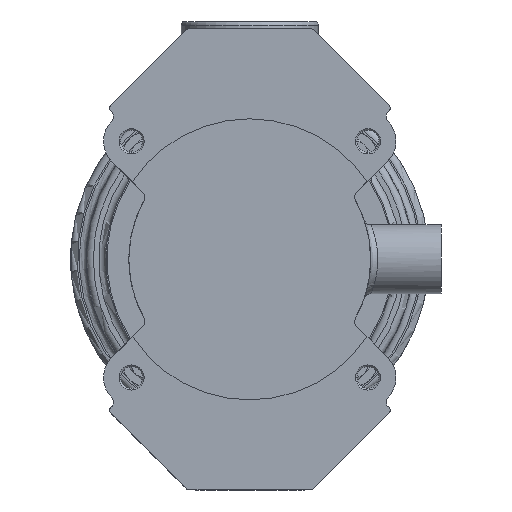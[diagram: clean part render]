
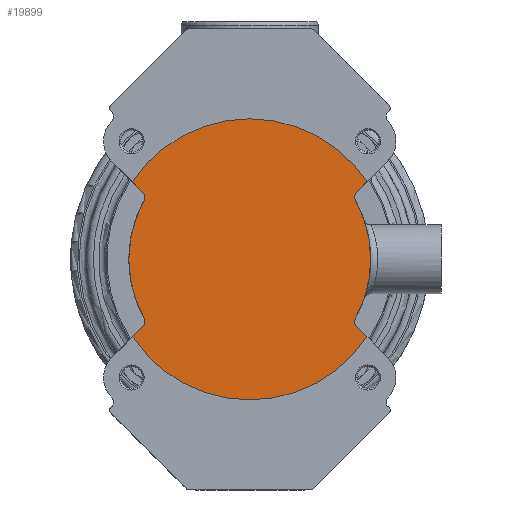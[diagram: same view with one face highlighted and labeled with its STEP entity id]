
A CAD part, front view. The second image highlights one B-rep face of the part: STEP entity #19899.
In plain terms, the highlighted planar face has unit normal (0, -1, 0).
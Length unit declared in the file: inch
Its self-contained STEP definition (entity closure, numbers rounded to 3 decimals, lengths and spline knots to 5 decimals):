
#588 = CARTESIAN_POINT ( 'NONE',  ( 0., -2.68, 0. ) ) ;
#838 = CIRCLE ( 'NONE', #17637, 2.4975 ) ;
#1719 = ORIENTED_EDGE ( 'NONE', *, *, #5120, .T. ) ;
#2004 = DIRECTION ( 'NONE',  ( 0., 1., 0. ) ) ;
#2371 = DIRECTION ( 'NONE',  ( 0., 0., -1. ) ) ;
#2515 = AXIS2_PLACEMENT_3D ( 'NONE', #9019, #56441, #32725 ) ;
#3322 = EDGE_CURVE ( 'NONE', #40511, #36681, #31011, .T. ) ;
#3643 = LINE ( 'NONE', #21677, #19063 ) ;
#4114 = VERTEX_POINT ( 'NONE', #9462 ) ;
#5072 = PLANE ( 'NONE',  #30962 ) ;
#5120 = EDGE_CURVE ( 'NONE', #26455, #40511, #9219, .T. ) ;
#5649 = AXIS2_PLACEMENT_3D ( 'NONE', #7279, #2004, #20970 ) ;
#5837 = ORIENTED_EDGE ( 'NONE', *, *, #47802, .T. ) ;
#5873 = CARTESIAN_POINT ( 'NONE',  ( -2.0838, -2.68, -1.37669 ) ) ;
#7279 = CARTESIAN_POINT ( 'NONE',  ( -1.98871, -2.68, -1.10483 ) ) ;
#7635 = CARTESIAN_POINT ( 'NONE',  ( 1.98871, -2.68, 1.10483 ) ) ;
#8008 = DIRECTION ( 'NONE',  ( 0.707, 0., 0.707 ) ) ;
#9019 = CARTESIAN_POINT ( 'NONE',  ( 0., -2.68, 0. ) ) ;
#9219 = CIRCLE ( 'NONE', #45119, 0.125 ) ;
#9462 = CARTESIAN_POINT ( 'NONE',  ( 2.0838, -2.68, -1.37669 ) ) ;
#10506 = DIRECTION ( 'NONE',  ( 0., 0., -1. ) ) ;
#10927 = VERTEX_POINT ( 'NONE', #32928 ) ;
#13024 = EDGE_CURVE ( 'NONE', #4114, #56361, #39461, .T. ) ;
#13203 = AXIS2_PLACEMENT_3D ( 'NONE', #588, #29240, #10506 ) ;
#13717 = VERTEX_POINT ( 'NONE', #5873 ) ;
#14016 = CARTESIAN_POINT ( 'NONE',  ( 1.87944, -2.68, 1.04412 ) ) ;
#14148 = DIRECTION ( 'NONE',  ( 0., 0., -1. ) ) ;
#14436 = ORIENTED_EDGE ( 'NONE', *, *, #3322, .T. ) ;
#15550 = ORIENTED_EDGE ( 'NONE', *, *, #23158, .T. ) ;
#15577 = CARTESIAN_POINT ( 'NONE',  ( -1.90032, -2.68, -1.19322 ) ) ;
#16103 = CARTESIAN_POINT ( 'NONE',  ( 1.90032, -2.68, 1.19322 ) ) ;
#16331 = DIRECTION ( 'NONE',  ( 0., -1., 0. ) ) ;
#16720 = VECTOR ( 'NONE', #58594, 39.37008 ) ;
#17403 = CIRCLE ( 'NONE', #2515, 2.4975 ) ;
#17637 = AXIS2_PLACEMENT_3D ( 'NONE', #56709, #61696, #23005 ) ;
#18065 = DIRECTION ( 'NONE',  ( 0., 1., 0. ) ) ;
#18470 = ORIENTED_EDGE ( 'NONE', *, *, #25918, .T. ) ;
#19035 = AXIS2_PLACEMENT_3D ( 'NONE', #22250, #16331, #36337 ) ;
#19063 = VECTOR ( 'NONE', #8008, 39.37008 ) ;
#19251 = EDGE_CURVE ( 'NONE', #4114, #38020, #32969, .T. ) ;
#19411 = DIRECTION ( 'NONE',  ( 0., 0., -1. ) ) ;
#19718 = AXIS2_PLACEMENT_3D ( 'NONE', #7635, #41041, #2371 ) ;
#19899 = ADVANCED_FACE ( 'NONE', ( #47503 ), #5072, .T. ) ;
#20345 = AXIS2_PLACEMENT_3D ( 'NONE', #45910, #18065, #61149 ) ;
#20454 = AXIS2_PLACEMENT_3D ( 'NONE', #32867, #57523, #19411 ) ;
#20461 = LINE ( 'NONE', #42773, #16720 ) ;
#20970 = DIRECTION ( 'NONE',  ( 0., 0., -1. ) ) ;
#21176 = ORIENTED_EDGE ( 'NONE', *, *, #13024, .F. ) ;
#21677 = CARTESIAN_POINT ( 'NONE',  ( 1.90032, -2.68, 1.19322 ) ) ;
#21872 = VECTOR ( 'NONE', #54887, 39.37008 ) ;
#22250 = CARTESIAN_POINT ( 'NONE',  ( 0., -2.68, 0. ) ) ;
#23005 = DIRECTION ( 'NONE',  ( 0., 0., -1. ) ) ;
#23139 = CARTESIAN_POINT ( 'NONE',  ( 1.98871, -2.68, -1.10483 ) ) ;
#23158 = EDGE_CURVE ( 'NONE', #38020, #51686, #61219, .T. ) ;
#23829 = DIRECTION ( 'NONE',  ( 0., 1., 0. ) ) ;
#24022 = CARTESIAN_POINT ( 'NONE',  ( 2.0838, -2.68, 1.37669 ) ) ;
#24852 = CARTESIAN_POINT ( 'NONE',  ( 1.87944, -2.68, -1.04412 ) ) ;
#25918 = EDGE_CURVE ( 'NONE', #30767, #28339, #29691, .T. ) ;
#26455 = VERTEX_POINT ( 'NONE', #47415 ) ;
#28339 = VERTEX_POINT ( 'NONE', #16103 ) ;
#29240 = DIRECTION ( 'NONE',  ( 0., -1., 0. ) ) ;
#29691 = CIRCLE ( 'NONE', #19718, 0.125 ) ;
#30311 = DIRECTION ( 'NONE',  ( -0.707, 0., -0.707 ) ) ;
#30698 = VERTEX_POINT ( 'NONE', #24022 ) ;
#30767 = VERTEX_POINT ( 'NONE', #14016 ) ;
#30823 = EDGE_LOOP ( 'NONE', ( #21176, #49493, #15550, #60074, #18470, #32958, #35675, #41506, #1719, #14436, #5837, #42873, #55166 ) ) ;
#30962 = AXIS2_PLACEMENT_3D ( 'NONE', #23139, #42817, #32810 ) ;
#31011 = CIRCLE ( 'NONE', #19035, 2.15 ) ;
#32725 = DIRECTION ( 'NONE',  ( 0., 0., -1. ) ) ;
#32810 = DIRECTION ( 'NONE',  ( 0., 0., -1. ) ) ;
#32867 = CARTESIAN_POINT ( 'NONE',  ( 0., -2.68, 0. ) ) ;
#32928 = CARTESIAN_POINT ( 'NONE',  ( -2.0838, -2.68, 1.37669 ) ) ;
#32958 = ORIENTED_EDGE ( 'NONE', *, *, #43077, .T. ) ;
#32969 = LINE ( 'NONE', #59591, #21872 ) ;
#33013 = EDGE_CURVE ( 'NONE', #56361, #13717, #838, .T. ) ;
#33282 = VECTOR ( 'NONE', #30311, 39.37008 ) ;
#33479 = EDGE_CURVE ( 'NONE', #10927, #26455, #20461, .T. ) ;
#35577 = CARTESIAN_POINT ( 'NONE',  ( -1.90032, -2.68, -1.19322 ) ) ;
#35655 = CARTESIAN_POINT ( 'NONE',  ( 0., -2.68, -2.4975 ) ) ;
#35675 = ORIENTED_EDGE ( 'NONE', *, *, #57556, .F. ) ;
#36337 = DIRECTION ( 'NONE',  ( 0., 0., -1. ) ) ;
#36681 = VERTEX_POINT ( 'NONE', #56124 ) ;
#37914 = CARTESIAN_POINT ( 'NONE',  ( -1.98871, -2.68, 1.10483 ) ) ;
#38020 = VERTEX_POINT ( 'NONE', #41724 ) ;
#38440 = LINE ( 'NONE', #35577, #33282 ) ;
#38541 = CIRCLE ( 'NONE', #5649, 0.125 ) ;
#39461 = CIRCLE ( 'NONE', #20454, 2.4975 ) ;
#39635 = EDGE_CURVE ( 'NONE', #51686, #30767, #50279, .T. ) ;
#40511 = VERTEX_POINT ( 'NONE', #47322 ) ;
#41041 = DIRECTION ( 'NONE',  ( 0., 1., 0. ) ) ;
#41506 = ORIENTED_EDGE ( 'NONE', *, *, #33479, .T. ) ;
#41724 = CARTESIAN_POINT ( 'NONE',  ( 1.90032, -2.68, -1.19322 ) ) ;
#42773 = CARTESIAN_POINT ( 'NONE',  ( -2.45366, -2.68, 1.74655 ) ) ;
#42817 = DIRECTION ( 'NONE',  ( 0., -1., 0. ) ) ;
#42873 = ORIENTED_EDGE ( 'NONE', *, *, #56512, .T. ) ;
#43077 = EDGE_CURVE ( 'NONE', #28339, #30698, #3643, .T. ) ;
#45119 = AXIS2_PLACEMENT_3D ( 'NONE', #37914, #23829, #14148 ) ;
#45910 = CARTESIAN_POINT ( 'NONE',  ( 1.98871, -2.68, -1.10483 ) ) ;
#47322 = CARTESIAN_POINT ( 'NONE',  ( -1.87944, -2.68, 1.04412 ) ) ;
#47415 = CARTESIAN_POINT ( 'NONE',  ( -1.90032, -2.68, 1.19322 ) ) ;
#47503 = FACE_OUTER_BOUND ( 'NONE', #30823, .T. ) ;
#47802 = EDGE_CURVE ( 'NONE', #36681, #57226, #38541, .T. ) ;
#49493 = ORIENTED_EDGE ( 'NONE', *, *, #19251, .T. ) ;
#50279 = CIRCLE ( 'NONE', #13203, 2.15 ) ;
#51686 = VERTEX_POINT ( 'NONE', #24852 ) ;
#54887 = DIRECTION ( 'NONE',  ( -0.707, 0., 0.707 ) ) ;
#55166 = ORIENTED_EDGE ( 'NONE', *, *, #33013, .F. ) ;
#56124 = CARTESIAN_POINT ( 'NONE',  ( -1.87944, -2.68, -1.04412 ) ) ;
#56361 = VERTEX_POINT ( 'NONE', #35655 ) ;
#56441 = DIRECTION ( 'NONE',  ( 0., 1., 0. ) ) ;
#56512 = EDGE_CURVE ( 'NONE', #57226, #13717, #38440, .T. ) ;
#56709 = CARTESIAN_POINT ( 'NONE',  ( 0., -2.68, 0. ) ) ;
#57226 = VERTEX_POINT ( 'NONE', #15577 ) ;
#57523 = DIRECTION ( 'NONE',  ( 0., 1., 0. ) ) ;
#57556 = EDGE_CURVE ( 'NONE', #10927, #30698, #17403, .T. ) ;
#58594 = DIRECTION ( 'NONE',  ( 0.707, 0., -0.707 ) ) ;
#59591 = CARTESIAN_POINT ( 'NONE',  ( 2.45366, -2.68, -1.74655 ) ) ;
#60074 = ORIENTED_EDGE ( 'NONE', *, *, #39635, .T. ) ;
#61149 = DIRECTION ( 'NONE',  ( 0., 0., -1. ) ) ;
#61219 = CIRCLE ( 'NONE', #20345, 0.125 ) ;
#61696 = DIRECTION ( 'NONE',  ( 0., 1., 0. ) ) ;
